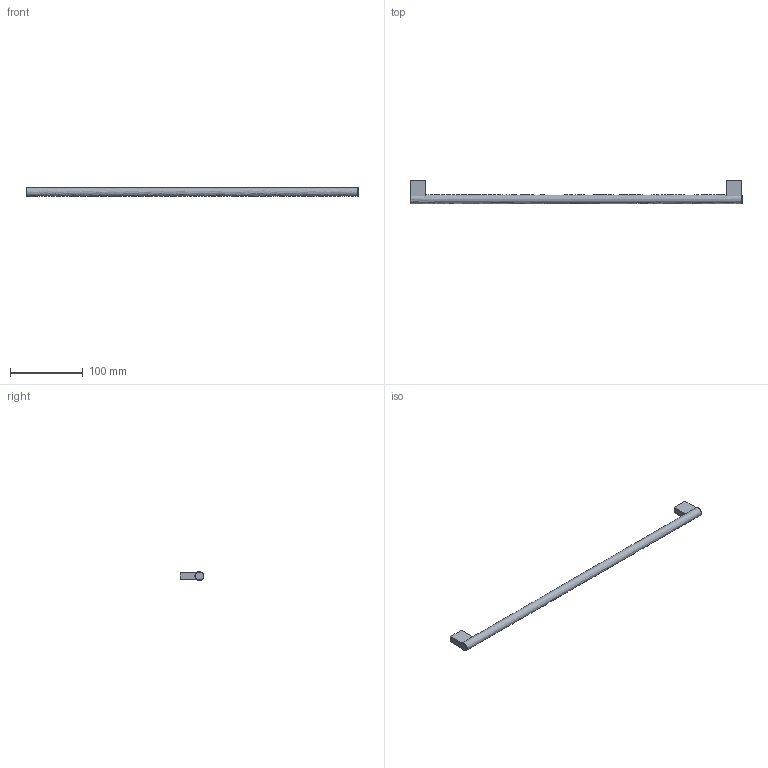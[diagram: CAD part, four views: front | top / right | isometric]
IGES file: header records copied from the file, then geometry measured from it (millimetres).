
Start section: Data from Parasolid IGES Translator 15.0.47, Copyright(c) 2006 Siemens P LM Software. All Rights Reserved.
Global section: file name:  115252.igs; native system:  By UGS Corp.; preprocessor: XPlus GENERIC/IGES 3.0; author: Noname; organization: Noname; date: 20140122.155635; units: millimetre
Bounding box: 456 x 32 x 12 mm (x, y, z)
Surface area: 20252.1 mm2 (no closed solid volume)
Topology: 0 solids, 0 shells, 19 faces, 80 edges, 76 vertices
Faces by surface type: extrusion 14, revolution 5
